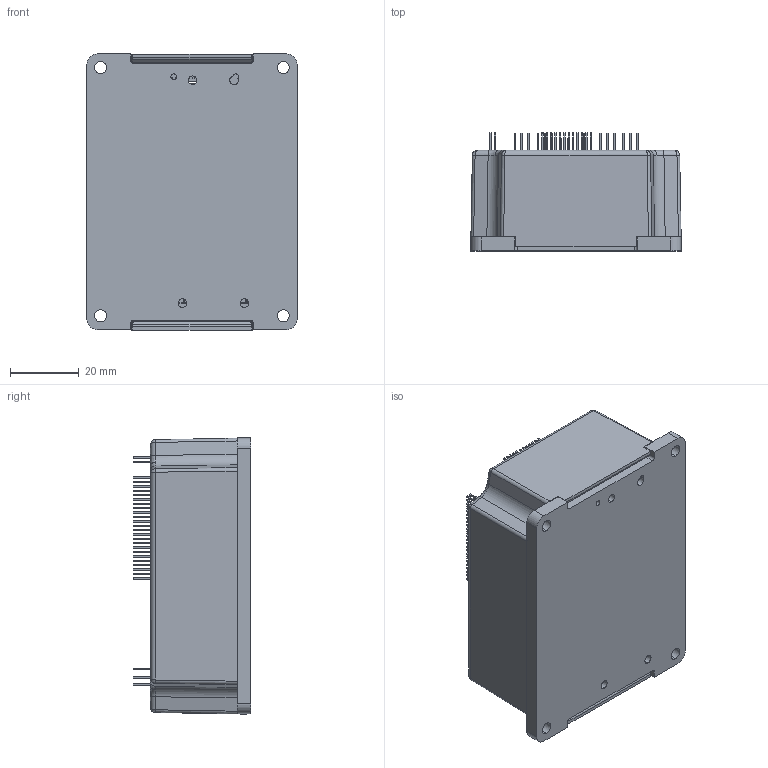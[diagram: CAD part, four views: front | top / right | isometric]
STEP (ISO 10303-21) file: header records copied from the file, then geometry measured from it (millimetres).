
FILE_DESCRIPTION (( 'STEP AP203' ), '1' );
FILE_NAME ('Gold-Guitar-GCON.STEP', '2013-02-14T14:17:59', ( 'YAEL' ), ( 'Microsoft' ), 'SwSTEP 2.0', 'SolidWorks 2012', '' );
FILE_SCHEMA (( 'CONFIG_CONTROL_DESIGN' ));
Products named in the file (1): Gold-Guitar-GCON
Bounding box: 61.01 x 34.16 x 80.15 mm (x, y, z)
Volume: 38920.7 mm3; surface area: 36765.3 mm2
Topology: 11 solids, 11 shells, 2078 faces, 5106 edges, 3298 vertices
Faces by surface type: plane 1718, cylinder 207, bspline 77, cone 76
Entity records: 62880 total; most frequent: CARTESIAN_POINT 13949, ORIENTED_EDGE 10190, DIRECTION 9303, EDGE_CURVE 5095, VECTOR 4479, LINE 4479, VERTEX_POINT 3298, EDGE_LOOP 2489
